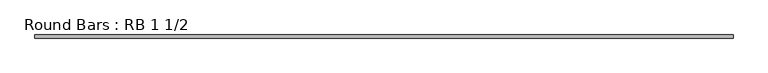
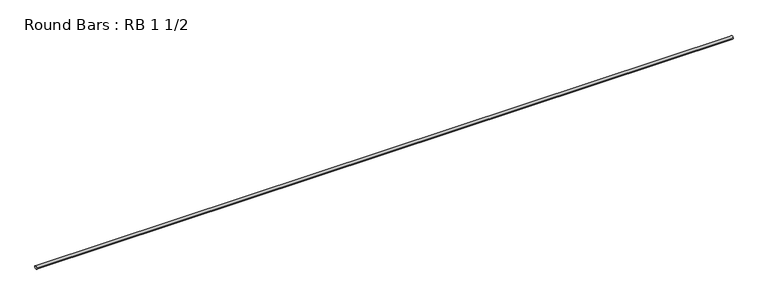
"""IFC4 building model written with IfcOpenShell, lengths in millimetres: member geometry, Round Bars : RB 1 1/2."""

from ifc_helpers import new_model, si_unit, point, frame, origin, origin_2d, place, context, project, spatial, circle_curve, trimmed, segment, composite_curve, outline, extrude, source, transform, mapped, element, save


def round_bars_rb_1_1_2_6c636087(model_context):
    return source(origin(), model_context, "Body", "SweptSolid", [
        extrude(outline(composite_curve([segment(trimmed(circle_curve(origin_2d(), 19.05), [point((19.05, 0.0))], [point((-19.05, 0.0))], False, "CARTESIAN"), True, "CONTINUOUS"), segment(trimmed(circle_curve(origin_2d(), 19.05), [point((-19.05, 0.0))], [point((19.05, 0.0))], False, "CARTESIAN"), True, "CONTINUOUS")], self_intersect=False)), frame((-4214.4371295, 0.0, 0.0), z_axis=(1.0, 0.0, 0.0), x_axis=(0.0, 1.0, 0.0)), (0.0, 0.0, 1.0), 8461.7892458),
    ])


if __name__ == "__main__":
    model = new_model("IFC4")
    model_context = context("Model", 3, world=origin())
    ifc_project = project(units=[si_unit("LENGTHUNIT", "METRE", prefix="MILLI")], contexts=[model_context])
    site = spatial("IfcSite", under=ifc_project)
    building = spatial("IfcBuilding", under=site)
    placement = place(None, origin())
    round_bars_rb_1_1_2_shape = round_bars_rb_1_1_2_6c636087(model_context)
    element("IfcMember", 1, ObjectType="Round Bars : RB 1 1/2", at=placement, inside=building, context=model_context, shape_type="MappedRepresentation", body=[
        mapped(round_bars_rb_1_1_2_shape, transform((0.0, 0.0, 0.0), x_axis=(1.0, 0.0, 0.0), y_axis=(0.0, 1.0, 0.0), z_axis=(0.0, 0.0, 1.0))),
    ])
    save(model, "model.ifc")
